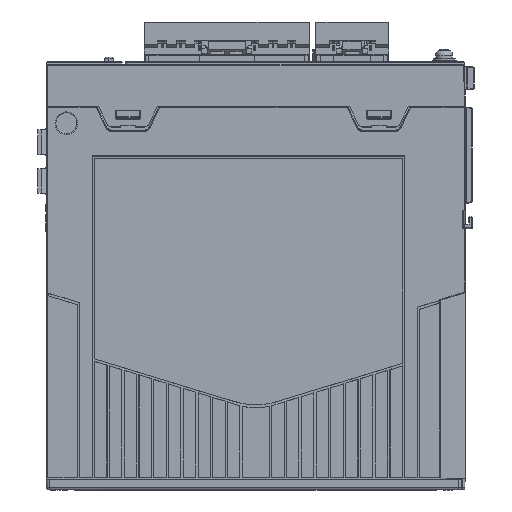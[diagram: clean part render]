
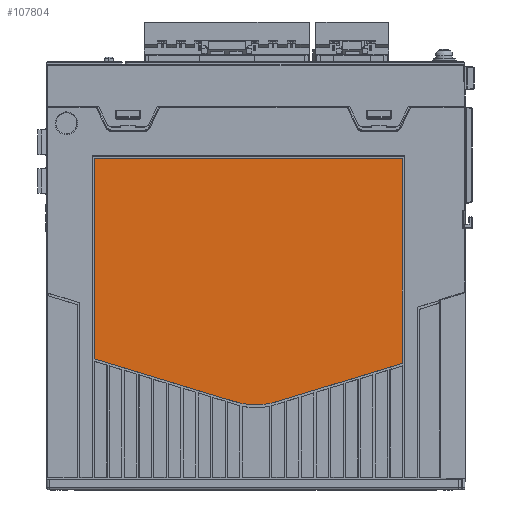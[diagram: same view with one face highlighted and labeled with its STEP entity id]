
A CAD part, left-side view. The second image highlights one B-rep face of the part: STEP entity #107804.
In plain terms, the highlighted planar face has unit normal (-1, 0, 0).
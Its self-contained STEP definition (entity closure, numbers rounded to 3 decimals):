
#42309=CARTESIAN_POINT('',(-30.9,140.5,
-102.676));
#42325=CARTESIAN_POINT('',(-30.9,15.499,
-21.25));
#42327=CARTESIAN_POINT('',(-30.9,140.501,
-21.25));
#42338=CARTESIAN_POINT('',(-30.9,15.5,
-104.511));
#42353=DIRECTION('',(0.,0.,1.));
#42354=VECTOR('',#42353,81.426);
#42355=CARTESIAN_POINT('',(-30.9,140.5,
-102.676));
#42356=LINE('',#42355,#42354);
#42357=DIRECTION('',(0.,-1.,0.));
#42358=VECTOR('',#42357,125.002);
#42359=CARTESIAN_POINT('',(-30.9,140.501,
-21.25));
#42360=LINE('',#42359,#42358);
#42361=DIRECTION('',(0.,0.,-1.));
#42362=VECTOR('',#42361,83.261);
#42363=CARTESIAN_POINT('',(-30.9,15.499,
-21.25));
#42364=LINE('',#42363,#42362);
#42365=DIRECTION('',(0.,0.956,-0.292));
#42366=VECTOR('',#42365,53.352);
#42367=CARTESIAN_POINT('',(-30.9,15.5,
-104.511));
#42368=LINE('',#42367,#42366);
#42369=CARTESIAN_POINT('',(-30.9,75.,-92.376));
#42370=DIRECTION('',(1.,0.,0.));
#42371=DIRECTION('',(0.,-0.292,-0.956));
#42372=AXIS2_PLACEMENT_3D('',#42369,#42370,#42371);
#42374=CARTESIAN_POINT('',(-30.9,75.,-92.376));
#42375=DIRECTION('',(1.,0.,0.));
#42376=DIRECTION('',(0.,0.,-1.));
#42377=AXIS2_PLACEMENT_3D('',#42374,#42375,#42376);
#42379=DIRECTION('',(0.,0.956,0.292));
#42380=VECTOR('',#42379,59.627);
#42381=CARTESIAN_POINT('',(-30.9,83.479,
-120.109));
#42382=LINE('',#42381,#42380);
#86726=VERTEX_POINT('',#42309);
#86729=VERTEX_POINT('',#42325);
#86730=VERTEX_POINT('',#42327);
#86731=VERTEX_POINT('',#42338);
#86732=CARTESIAN_POINT('',(-30.9,83.479,
-120.109));
#86733=VERTEX_POINT('',#86732);
#86734=CARTESIAN_POINT('',(-30.9,66.521,
-120.109));
#86735=VERTEX_POINT('',#86734);
#86736=CARTESIAN_POINT('',(-30.9,75.,-121.376));
#86737=VERTEX_POINT('',#86736);
#107790=CARTESIAN_POINT('',(-30.9,77.999,-71.313));
#107791=DIRECTION('',(1.,0.,0.));
#107792=DIRECTION('',(0.,0.,1.));
#107793=AXIS2_PLACEMENT_3D('',#107790,#107791,#107792);
#107794=PLANE('',#107793);
#107795=ORIENTED_EDGE('',*,*,#107669,.T.);
#107796=ORIENTED_EDGE('',*,*,#107691,.T.);
#107797=ORIENTED_EDGE('',*,*,#107712,.T.);
#107798=ORIENTED_EDGE('',*,*,#107733,.T.);
#107799=ORIENTED_EDGE('',*,*,#107757,.T.);
#107800=ORIENTED_EDGE('',*,*,#107755,.T.);
#107801=ORIENTED_EDGE('',*,*,#107777,.T.);
#107802=EDGE_LOOP('',(#107795,#107796,#107797,#107798,#107799,#107800,#107801));
#107803=FACE_OUTER_BOUND('',#107802,.F.);
#42373=CIRCLE('',#42372,29.);
#42378=CIRCLE('',#42377,29.);
#107669=EDGE_CURVE('',#86726,#86730,#42356,.T.);
#107691=EDGE_CURVE('',#86730,#86729,#42360,.T.);
#107712=EDGE_CURVE('',#86729,#86731,#42364,.T.);
#107733=EDGE_CURVE('',#86731,#86735,#42368,.T.);
#107755=EDGE_CURVE('',#86737,#86733,#42378,.T.);
#107757=EDGE_CURVE('',#86735,#86737,#42373,.T.);
#107777=EDGE_CURVE('',#86733,#86726,#42382,.T.);
#107804=ADVANCED_FACE('',(#107803),#107794,.F.);
